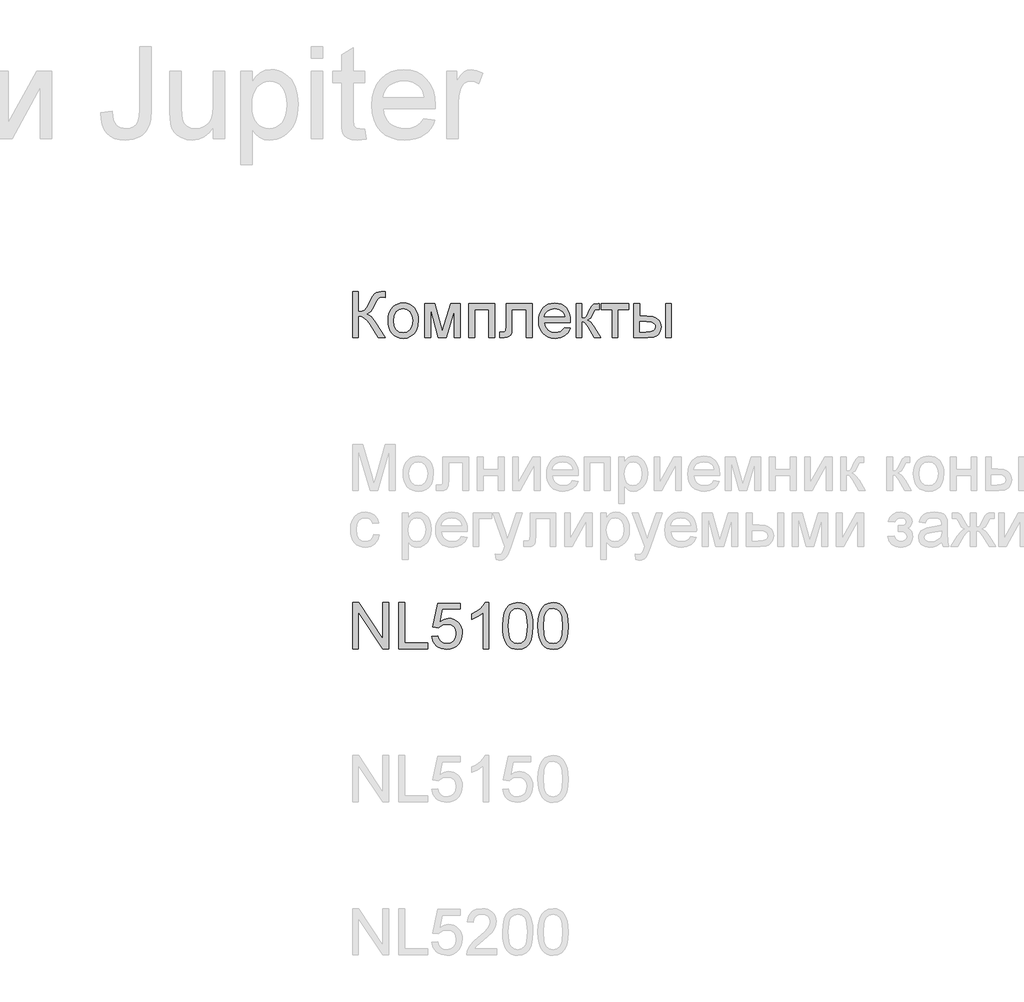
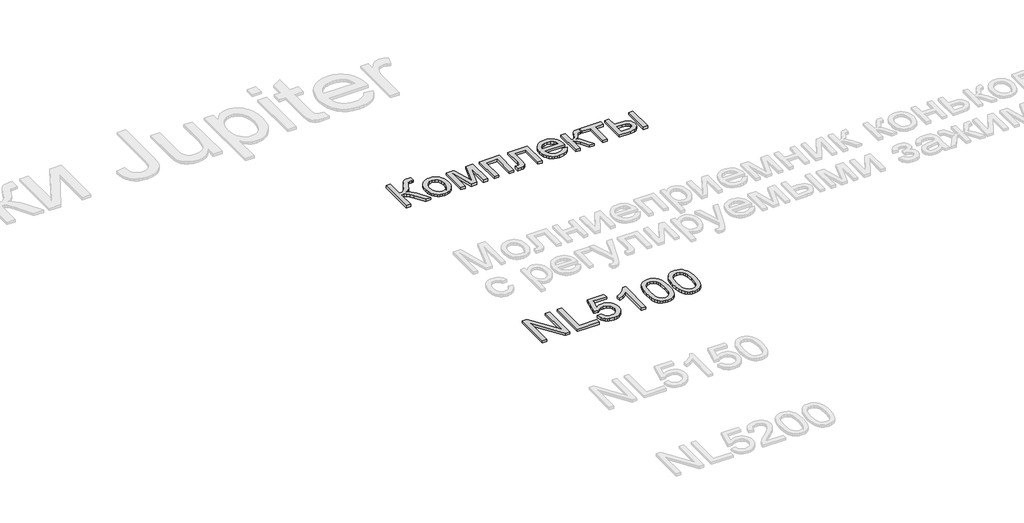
# One storey, part 64 of 124: 2 proxies.
"""IFC4 building model written with IfcOpenShell, lengths in millimetres."""

from ifc_helpers import new_model, si_unit, origin, origin_with_axes, place, context, project, spatial, polyline, outline, extrude, element, save

model = new_model("IFC4")

# Units and contexts
model_context = context("Model", 3, world=origin())
ifc_project = project(units=[si_unit("LENGTHUNIT", "METRE", prefix="MILLI")], contexts=[model_context])

# Site, building, storey
site = spatial("IfcSite", under=ifc_project)
building = spatial("IfcBuilding", under=site)
storey = spatial("IfcBuildingStorey", under=building, Name="Этаж 01", Elevation=0.0)

# Proxies
placement = place(None, origin())
element("IfcBuildingElementProxy", 1, Name="300", ObjectType="300", at=placement, inside=storey, context=model_context, shape_type="SweptSolid", body=[
    extrude(outline(polyline([(10399.8220677, -49773.1294316), (10437.493184, -49773.1294316), (10437.493184, -49904.9783386), (10462.9966033, -49902.4859381), (10479.6156724, -49895.0087366), (10493.0525623, -49877.4147801), (10509.0094439, -49844.572115), (10529.7947766, -49802.4496266), (10539.819561, -49791.0360877), (10553.3392243, -49781.5907174), (10569.3880763, -49775.244753), (10587.0004268, -49773.1294316), (10611.7220969, -49773.5708899), (10611.7220969, -49811.2420063), (10603.4079638, -49811.0212771), (10595.0938307, -49810.8005479), (10577.8401652, -49813.0630221), (10565.6632711, -49819.8504449), (10555.1786343, -49834.1058723), (10543.2960458, -49858.6252072), (10528.7187218, -49889.1594128), (10516.6246012, -49905.8612554), (10490.6153441, -49921.459452), (10505.2064637, -49927.6674607), (10519.6964158, -49938.4923884), (10548.3728173, -49973.9930009), (10611.7220969, -50074.498362), (10568.0177159, -50074.498362), (10514.4540974, -49989.5911975), (10493.7699322, -49962.3587328), (10476.7461929, -49945.2614171), (10459.3361775, -49936.2391112), (10437.493184, -49933.2316759), (10437.493184, -50074.498362), (10399.8220677, -50074.498362), (10399.8220677, -49773.1294316)])), origin_with_axes(), (0.0, 0.0, 1.0), 20.0),
    extrude(outline(polyline([(10630.5576551, -49963.8394579), (10632.5948016, -49935.1768519), (10638.7062413, -49910.4781745), (10648.891974, -49889.7434255), (10663.1519998, -49872.972605), (10677.5085947, -49862.2534434), (10693.3551116, -49854.5968994), (10710.6915507, -49850.002973), (10729.5179118, -49848.4716642), (10750.3009452, -49850.336366), (10769.0928174, -49855.9304716), (10785.8935283, -49865.2539809), (10800.7030778, -49878.306894), (10812.7903006, -49894.6477523), (10821.4240312, -49913.8350977), (10826.6042696, -49935.8689299), (10828.3310157, -49960.7492491), (10825.2775951, -49998.8066415), (10816.1173334, -50027.7773486), (10801.1169451, -50049.4731893), (10780.5431445, -50065.7059823), (10756.106583, -50075.8319342), (10729.5179118, -50079.2072515), (10708.4313757, -50077.3494475), (10689.4647595, -50071.7760352), (10672.6180634, -50062.4870149), (10657.8912873, -50049.4823863), (10645.9328232, -50032.9828788), (10637.3910631, -50013.2092216), (10632.2660071, -49990.1614146), (10630.5576551, -49963.8394579)]), holes=[polyline([(10668.2287714, -49963.7658815), (10672.588173, -49997.8593454), (10685.6663779, -50022.1487541), (10705.3480647, -50036.6892899), (10729.5179118, -50041.5361352), (10753.5773943, -50036.6616988), (10773.2222928, -50022.0383895), (10786.3004977, -49997.427084), (10790.6598994, -49962.5886591), (10786.2729066, -49929.4884766), (10773.1119282, -49905.5301616), (10753.4394385, -49890.9896258), (10729.5179118, -49886.1427805), (10705.3480647, -49890.9712317), (10685.6663779, -49905.4565852), (10672.588173, -49929.6908117), (10668.2287714, -49963.7658815)])]), origin_with_axes(), (0.0, 0.0, 1.0), 20.0),
    extrude(outline(polyline([(10870.7110215, -49853.1805537), (10935.5318291, -49853.1805537), (10985.490204, -50030.3525226), (11039.3481281, -49853.1805537), (11101.4466089, -49853.1805537), (11101.4466089, -50074.498362), (11063.7754926, -50074.498362), (11063.7754926, -49896.2963235), (11009.6232629, -50074.498362), (10960.1799227, -50074.498362), (10908.3821378, -49887.7614613), (10908.3821378, -50074.498362), (10870.7110215, -50074.498362), (10870.7110215, -49853.1805537)])), origin_with_axes(), (0.0, 0.0, 1.0), 20.0),
    extrude(outline(polyline([(11157.9532834, -49853.1805537), (11327.4733067, -49853.1805537), (11327.4733067, -50074.498362), (11289.8021904, -50074.498362), (11289.8021904, -49890.85167), (11195.6243997, -49890.85167), (11195.6243997, -50074.498362), (11157.9532834, -50074.498362), (11157.9532834, -49853.1805537)])), origin_with_axes(), (0.0, 0.0, 1.0), 20.0),
    extrude(outline(polyline([(11402.8155393, -49853.1805537), (11572.3355627, -49853.1805537), (11572.3355627, -50074.2776328), (11534.6644464, -50074.2776328), (11534.6644464, -49890.85167), (11440.4866556, -49890.85167), (11440.4866556, -49996.4338026), (11437.9482699, -50045.1413788), (11433.1933951, -50056.1686416), (11424.0055423, -50065.7059823), (11410.0628146, -50072.3002671), (11391.0433155, -50074.498362), (11360.4355335, -50072.5853756), (11360.4355335, -50036.8272457), (11377.2845289, -50036.8272457), (11394.3174653, -50034.5095891), (11401.1232822, -50027.1519492), (11402.8155393, -49994.3000871), (11402.8155393, -49853.1805537)])), origin_with_axes(), (0.0, 0.0, 1.0), 20.0),
    extrude(outline(polyline([(11783.7941335, -50008.5739085), (11820.7294859, -50013.282798), (11807.4213547, -50041.1130709), (11786.1853665, -50061.9167978), (11757.4997679, -50074.8846381), (11721.8428056, -50079.2072515), (11698.4685033, -50077.3425497), (11677.6417838, -50071.7484441), (11659.3626472, -50062.4249348), (11643.6310934, -50049.3720217), (11630.9805513, -50032.9529884), (11621.9444498, -50013.5311184), (11616.5227889, -49991.1064115), (11614.7155686, -49965.6788678), (11616.541183, -49939.3891007), (11622.0180262, -49916.2171336), (11631.1460982, -49896.1629663), (11643.925399, -49879.226599), (11659.6155661, -49865.771315), (11677.4762369, -49856.1603979), (11697.5074116, -49850.3938476), (11719.70909, -49848.4716642), (11741.1956978, -49850.3892491), (11760.6267649, -49856.1420038), (11778.0022914, -49865.7299283), (11793.3222772, -49879.1530226), (11805.8279658, -49896.0526017), (11814.7606005, -49916.0699808), (11820.1201813, -49939.2051598), (11821.9067082, -49965.4581386), (11821.6859791, -49975.6116817), (11652.3866849, -49975.6116817), (11658.9073932, -50003.8098366), (11674.0549344, -50024.5399871), (11695.916322, -50037.2870982), (11722.5785696, -50041.5361352), (11742.6281383, -50039.5679666), (11759.5139219, -50033.6634605), (11773.2359203, -50023.4547352), (11783.7941335, -50008.5739085)]), holes=[polyline([(11652.3866849, -49937.9405654), (11784.2355919, -49937.9405654), (11779.1404263, -49918.0381495), (11769.1524301, -49903.8011162), (11747.189875, -49890.5573644), (11719.5619372, -49886.1427805), (11694.1688825, -49889.6652506), (11673.1720176, -49900.2326609), (11658.5762994, -49916.7045772), (11652.3866849, -49937.9405654)])]), origin_with_axes(), (0.0, 0.0, 1.0), 20.0),
    extrude(outline(polyline([(11859.5778246, -49853.1805537), (11897.2489409, -49853.1805537), (11897.2489409, -49947.3583445), (11912.571226, -49945.6660873), (11922.4856457, -49940.5893158), (11931.2596313, -49927.3455639), (11943.1606139, -49901.1523659), (11960.340703, -49867.1232813), (11975.4974412, -49856.0500333), (12003.0518027, -49853.1805537), (12010.2622898, -49853.1805537), (12010.2622898, -49891.0723992), (12000.1087467, -49890.85167), (11981.714647, -49894.8247956), (11968.7652007, -49919.620042), (11953.5716743, -49946.4386395), (11932.2713068, -49959.5720267), (11944.2090775, -49964.874126), (11956.0364837, -49974.2321242), (11979.3602022, -50005.1158177), (12019.6800689, -50074.498362), (11976.8586046, -50074.498362), (11937.3480783, -50006.5873457), (11917.4824506, -49977.8557619), (11908.1934302, -49972.6410346), (11897.2489409, -49970.9027922), (11897.2489409, -50074.498362), (11859.5778246, -50074.498362), (11859.5778246, -49853.1805537)])), origin_with_axes(), (0.0, 0.0, 1.0), 20.0),
    extrude(outline(polyline([(12024.3889584, -49853.1805537), (12203.3267608, -49853.1805537), (12203.3267608, -49890.85167), (12132.6934178, -49890.85167), (12132.6934178, -50074.498362), (12095.0223015, -50074.498362), (12095.0223015, -49890.85167), (12024.3889584, -49890.85167), (12024.3889584, -49853.1805537)])), origin_with_axes(), (0.0, 0.0, 1.0), 20.0),
    extrude(outline(polyline([(12443.4801273, -49853.1805537), (12481.1512436, -49853.1805537), (12481.1512436, -50074.498362), (12443.4801273, -50074.498362), (12443.4801273, -49853.1805537)])), origin_with_axes(), (0.0, 0.0, 1.0), 20.0),
    extrude(outline(polyline([(12236.2889876, -49853.1805537), (12273.9601039, -49853.1805537), (12273.9601039, -49933.2316759), (12320.5339645, -49933.2316759), (12360.7894518, -49937.9497624), (12377.00615, -49943.8473707), (12390.6154846, -49952.1040222), (12401.3829307, -49962.4346085), (12409.0739637, -49974.554021), (12413.6885835, -49988.4622596), (12415.2267901, -50004.1593245), (12410.0672451, -50031.1158777), (12394.5886101, -50053.8601821), (12382.7267151, -50062.8893858), (12367.7792097, -50069.338817), (12328.6273684, -50074.498362), (12236.2889876, -50074.498362), (12236.2889876, -49853.1805537)]), holes=[polyline([(12273.9601039, -50036.8272457), (12312.6612898, -50036.8272457), (12342.6620665, -50034.84988), (12362.6196648, -50028.9177828), (12373.8216715, -50018.7918309), (12377.5556738, -50004.2329009), (12374.7873618, -49991.9272482), (12366.4824257, -49981.0563352), (12348.7229224, -49973.4411779), (12317.5909086, -49970.9027922), (12273.9601039, -49970.9027922), (12273.9601039, -50036.8272457)])]), origin_with_axes(), (0.0, 0.0, 1.0), 20.0),
])
element("IfcBuildingElementProxy", 2, Name="300", ObjectType="300", at=placement, inside=storey, context=model_context, shape_type="SweptSolid", body=[
    extrude(outline(polyline([(10399.8220677, -52107.4605888), (10399.8220677, -51806.0916583), (10440.1419344, -51806.0916583), (10597.5954283, -52044.8470732), (10597.5954283, -51806.0916583), (10635.2665446, -51806.0916583), (10635.2665446, -52107.4605888), (10594.9466779, -52107.4605888), (10437.493184, -51868.6315975), (10437.493184, -52107.4605888), (10399.8220677, -52107.4605888)])), origin_with_axes(), (0.0, 0.0, 1.0), 20.0),
    extrude(outline(polyline([(10701.1909981, -52107.4605888), (10701.1909981, -51806.0916583), (10738.8621144, -51806.0916583), (10738.8621144, -52069.7894725), (10889.5465797, -52069.7894725), (10889.5465797, -52107.4605888), (10701.1909981, -52107.4605888)])), origin_with_axes(), (0.0, 0.0, 1.0), 20.0),
    extrude(outline(polyline([(10917.7999169, -52027.4094666), (10955.4710332, -52022.7005771), (10962.3872147, -52045.3161227), (10974.4537442, -52061.5121276), (10991.6154392, -52071.2518034), (11013.8171176, -52074.498362), (11040.8196561, -52069.9826105), (11061.0531658, -52056.435356), (11073.6899124, -52035.4200971), (11077.9021612, -52008.5003321), (11073.9566268, -51983.1532626), (11062.1200236, -51963.7658815), (11042.3003811, -51951.4602287), (11014.4057288, -51947.3583445), (10996.1311907, -51948.9954193), (10981.3331375, -51953.906644), (10960.1799227, -51970.9027922), (10922.5088064, -51966.1939026), (10955.4710332, -51810.8005479), (11101.4466089, -51810.8005479), (11101.4466089, -51848.4716642), (10985.9316624, -51848.4716642), (10969.818431, -51931.4658423), (10996.728999, -51915.1318817), (11024.9271539, -51909.6872282), (11043.2729691, -51911.3748868), (11060.1242638, -51916.4378628), (11075.4810378, -51924.876156), (11089.3432913, -51936.6897666), (11100.8189102, -51951.1567261), (11109.0157809, -51967.555066), (11113.9339034, -51985.8847864), (11115.5732775, -52006.1458873), (11109.6687715, -52043.8170036), (11102.288139, -52060.6108167), (11091.9552534, -52076.0434664), (11076.3018745, -52091.8485966), (11058.0365335, -52103.1379753), (11037.1592302, -52109.9116026), (11013.6699648, -52112.1694783), (10976.6702332, -52106.3661398), (10960.9915624, -52099.1119667), (10947.1936883, -52088.9561244), (10935.7134708, -52076.4044506), (10926.9877697, -52061.962783), (10917.7999169, -52027.4094666)])), origin_with_axes(), (0.0, 0.0, 1.0), 20.0),
    extrude(outline(polyline([(11289.8021904, -52107.4605888), (11252.1310741, -52107.4605888), (11252.1310741, -51872.604723), (11216.4465206, -51898.0253689), (11176.7888415, -51917.0448681), (11176.7888415, -51881.4338909), (11206.375751, -51865.3390536), (11232.007929, -51846.1907958), (11252.2138476, -51825.8285274), (11265.5219787, -51806.0916583), (11289.8021904, -51806.0916583), (11289.8021904, -52107.4605888)])), origin_with_axes(), (0.0, 0.0, 1.0), 20.0),
    extrude(outline(polyline([(11379.2710917, -51959.2041447), (11382.0394037, -51910.9656181), (11390.3443397, -51872.4943585), (11404.1031263, -51843.2017546), (11423.2329901, -51822.4991953), (11447.8718867, -51810.1935426), (11478.157772, -51806.0916583), (11501.3711259, -51808.5196795), (11522.1564586, -51815.803743), (11539.5388829, -51827.6587403), (11552.5435114, -51843.7995628), (11562.3659607, -51864.0882549), (11570.2018471, -51888.3868606), (11575.333801, -51919.242963), (11577.0444523, -51959.2041447), (11574.3037314, -52007.1667598), (11566.0815688, -52045.546049), (11552.4055556, -52074.866244), (11533.303283, -52095.6515767), (11508.6092041, -52108.0400029), (11478.157772, -52112.1694783), (11457.4092274, -52110.3760536), (11439.0151277, -52104.9957794), (11422.9754727, -52096.0286558), (11409.2902625, -52083.4746827), (11396.1568752, -52060.7809621), (11386.7758844, -52032.5046323), (11381.1472898, -51998.6456931), (11379.2710917, -51959.2041447)]), holes=[polyline([(11416.942208, -51959.1305683), (11421.3567919, -52018.3871607), (11426.8750218, -52038.6551594), (11434.6005437, -52052.6829597), (11454.3190187, -52069.0445114), (11478.157772, -52074.498362), (11501.9965252, -52069.0261173), (11521.7150002, -52052.6093833), (11529.4405221, -52038.5585903), (11534.958752, -52018.2951902), (11539.373336, -51959.1305683), (11535.1059048, -51901.2075482), (11529.7716159, -51881.0062281), (11522.3036114, -51866.6450347), (11502.6219246, -51849.4833397), (11477.7163136, -51843.7627746), (11454.1350777, -51848.802758), (11435.1891549, -51863.922708), (11427.2061156, -51879.5576928), (11421.5039447, -51900.6373311), (11416.942208, -51959.1305683)])]), origin_with_axes(), (0.0, 0.0, 1.0), 20.0),
    extrude(outline(polyline([(11610.006679, -51959.2041447), (11612.774991, -51910.9656181), (11621.0799271, -51872.4943585), (11634.8387137, -51843.2017546), (11653.9685775, -51822.4991953), (11678.6074741, -51810.1935426), (11708.8933593, -51806.0916583), (11732.1067132, -51808.5196795), (11752.892046, -51815.803743), (11770.2744702, -51827.6587403), (11783.2790988, -51843.7995628), (11793.101548, -51864.0882549), (11800.9374345, -51888.3868606), (11806.0693884, -51919.242963), (11807.7800396, -51959.2041447), (11805.0393188, -52007.1667598), (11796.8171562, -52045.546049), (11783.141143, -52074.866244), (11764.0388704, -52095.6515767), (11739.3447915, -52108.0400029), (11708.8933593, -52112.1694783), (11688.1448148, -52110.3760536), (11669.750715, -52104.9957794), (11653.7110601, -52096.0286558), (11640.0258498, -52083.4746827), (11626.8924626, -52060.7809621), (11617.5114717, -52032.5046323), (11611.8828772, -51998.6456931), (11610.006679, -51959.2041447)]), holes=[polyline([(11647.6777953, -51959.1305683), (11652.0923793, -52018.3871607), (11657.6106092, -52038.6551594), (11665.3361311, -52052.6829597), (11685.054606, -52069.0445114), (11708.8933593, -52074.498362), (11732.7321126, -52069.0261173), (11752.4505876, -52052.6093833), (11760.1761095, -52038.5585903), (11765.6943394, -52018.2951902), (11770.1089233, -51959.1305683), (11765.8414922, -51901.2075482), (11760.5072033, -51881.0062281), (11753.0391988, -51866.6450347), (11733.357512, -51849.4833397), (11708.4519009, -51843.7627746), (11684.870665, -51848.802758), (11665.9247423, -51863.922708), (11657.941703, -51879.5576928), (11652.2395321, -51900.6373311), (11647.6777953, -51959.1305683)])]), origin_with_axes(), (0.0, 0.0, 1.0), 20.0),
])

save(model, "model.ifc")
